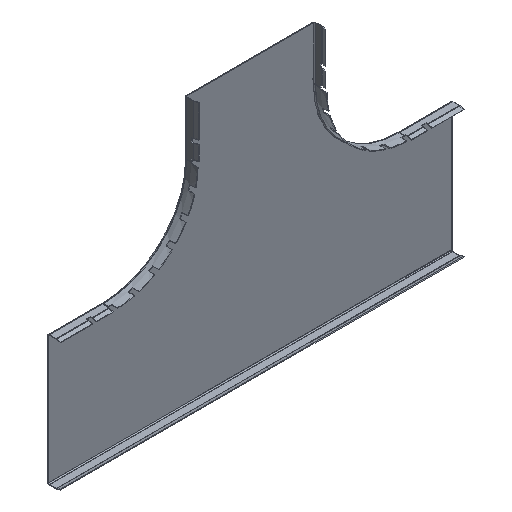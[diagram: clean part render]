
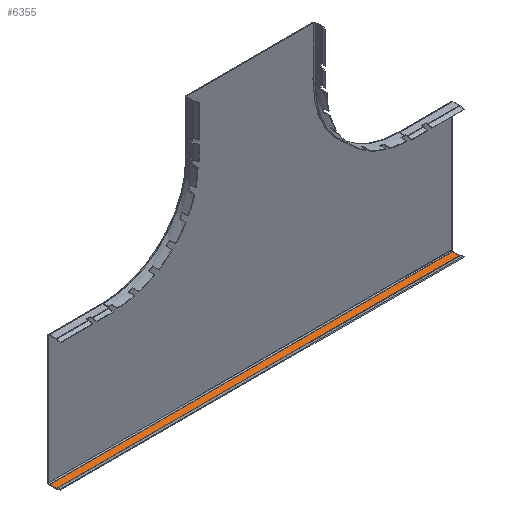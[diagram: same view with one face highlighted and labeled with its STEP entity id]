
A CAD part, isometric view. The second image highlights one B-rep face of the part: STEP entity #6355.
In plain terms, the highlighted planar face has unit normal (0, 0, 1).
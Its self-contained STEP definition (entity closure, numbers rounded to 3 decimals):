
#198 = VECTOR ( 'NONE', #5163, 1000. ) ;
#288 = CARTESIAN_POINT ( 'NONE',  ( 236., -9.2, -76. ) ) ;
#791 = VECTOR ( 'NONE', #5934, 1000. ) ;
#1156 = DIRECTION ( 'NONE',  ( 0., 1., 0. ) ) ;
#1677 = DIRECTION ( 'NONE',  ( 0., -1., 0. ) ) ;
#2243 = LINE ( 'NONE', #5983, #2791 ) ;
#2529 = EDGE_CURVE ( 'NONE', #5786, #5136, #5269, .T. ) ;
#2558 = CARTESIAN_POINT ( 'NONE',  ( -236., -1., -76. ) ) ;
#2648 = CARTESIAN_POINT ( 'NONE',  ( -236., 0., -76. ) ) ;
#2781 = FACE_OUTER_BOUND ( 'NONE', #2893, .T. ) ;
#2791 = VECTOR ( 'NONE', #1156, 1000. ) ;
#2817 = ORIENTED_EDGE ( 'NONE', *, *, #3242, .F. ) ;
#2893 = EDGE_LOOP ( 'NONE', ( #5475, #2817, #4276, #5730 ) ) ;
#3242 = EDGE_CURVE ( 'NONE', #5909, #4106, #6047, .T. ) ;
#3444 = EDGE_CURVE ( 'NONE', #4106, #5786, #4869, .T. ) ;
#3738 = CARTESIAN_POINT ( 'NONE',  ( 236., -9.2, -76. ) ) ;
#3829 = CARTESIAN_POINT ( 'NONE',  ( -236., -1., -76. ) ) ;
#4106 = VERTEX_POINT ( 'NONE', #5199 ) ;
#4276 = ORIENTED_EDGE ( 'NONE', *, *, #5617, .F. ) ;
#4375 = PLANE ( 'NONE',  #5556 ) ;
#4869 = LINE ( 'NONE', #3738, #6335 ) ;
#5136 = VERTEX_POINT ( 'NONE', #5666 ) ;
#5163 = DIRECTION ( 'NONE',  ( -1., 0., 0. ) ) ;
#5199 = CARTESIAN_POINT ( 'NONE',  ( 236., -1., -76. ) ) ;
#5269 = LINE ( 'NONE', #6270, #198 ) ;
#5475 = ORIENTED_EDGE ( 'NONE', *, *, #3444, .F. ) ;
#5556 = AXIS2_PLACEMENT_3D ( 'NONE', #2648, #6457, #6874 ) ;
#5617 = EDGE_CURVE ( 'NONE', #5136, #5909, #2243, .T. ) ;
#5666 = CARTESIAN_POINT ( 'NONE',  ( -236., -9.2, -76. ) ) ;
#5730 = ORIENTED_EDGE ( 'NONE', *, *, #2529, .F. ) ;
#5786 = VERTEX_POINT ( 'NONE', #288 ) ;
#5909 = VERTEX_POINT ( 'NONE', #2558 ) ;
#5934 = DIRECTION ( 'NONE',  ( 1., 0., 0. ) ) ;
#5983 = CARTESIAN_POINT ( 'NONE',  ( -236., 0., -76. ) ) ;
#6047 = LINE ( 'NONE', #3829, #791 ) ;
#6270 = CARTESIAN_POINT ( 'NONE',  ( -236., -9.2, -76. ) ) ;
#6335 = VECTOR ( 'NONE', #1677, 1000. ) ;
#6355 = ADVANCED_FACE ( 'NONE', ( #2781 ), #4375, .T. ) ;
#6457 = DIRECTION ( 'NONE',  ( 0., 0., 1. ) ) ;
#6874 = DIRECTION ( 'NONE',  ( 0., -1., 0. ) ) ;
